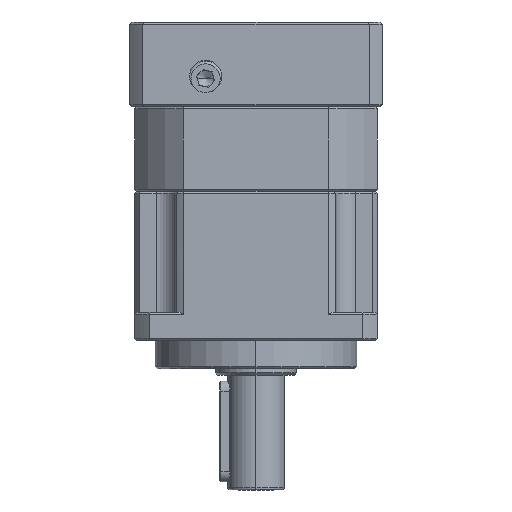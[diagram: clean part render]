
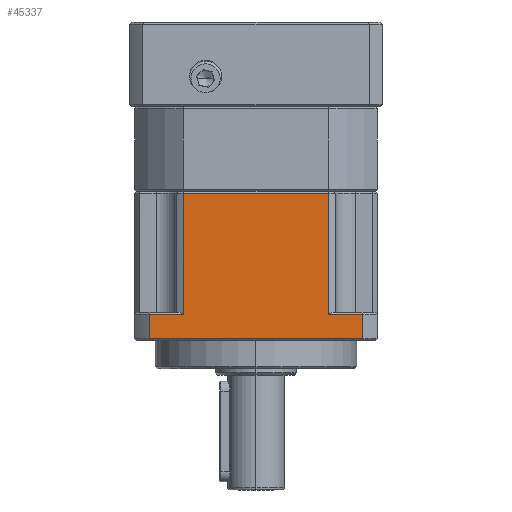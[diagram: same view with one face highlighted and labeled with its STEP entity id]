
A CAD part, left-side view. The second image highlights one B-rep face of the part: STEP entity #45337.
In plain terms, the highlighted planar face has unit normal (-1, 0, 0).
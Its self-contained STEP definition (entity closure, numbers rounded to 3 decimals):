
#529 = DIRECTION ( 'NONE',  ( 1., 0., 0. ) ) ;
#2145 = ORIENTED_EDGE ( 'NONE', *, *, #35037, .F. ) ;
#2540 = EDGE_CURVE ( 'NONE', #17153, #47011, #3408, .T. ) ;
#3408 = LINE ( 'NONE', #75482, #41998 ) ;
#3606 = LINE ( 'NONE', #89566, #78391 ) ;
#4888 = VECTOR ( 'NONE', #24397, 1000. ) ;
#5077 = VERTEX_POINT ( 'NONE', #64223 ) ;
#6300 = ORIENTED_EDGE ( 'NONE', *, *, #57804, .T. ) ;
#6393 = ORIENTED_EDGE ( 'NONE', *, *, #2540, .F. ) ;
#11939 = CARTESIAN_POINT ( 'NONE',  ( -62.293, 28.941, 110.502 ) ) ;
#13494 = ORIENTED_EDGE ( 'NONE', *, *, #55249, .F. ) ;
#14795 = PLANE ( 'NONE',  #36953 ) ;
#16425 = VERTEX_POINT ( 'NONE', #76972 ) ;
#16445 = VERTEX_POINT ( 'NONE', #33249 ) ;
#17153 = VERTEX_POINT ( 'NONE', #54055 ) ;
#17971 = CARTESIAN_POINT ( 'NONE',  ( -62.293, -19.087, 74.502 ) ) ;
#18128 = CARTESIAN_POINT ( 'NONE',  ( -62.293, -15.545, 80.502 ) ) ;
#19852 = VECTOR ( 'NONE', #93204, 1000. ) ;
#20045 = ORIENTED_EDGE ( 'NONE', *, *, #62705, .F. ) ;
#20666 = CARTESIAN_POINT ( 'NONE',  ( -62.293, -7.115, 110.502 ) ) ;
#24397 = DIRECTION ( 'NONE',  ( 0., 1., 0. ) ) ;
#25427 = EDGE_CURVE ( 'NONE', #16445, #32405, #76055, .T. ) ;
#30400 = LINE ( 'NONE', #67924, #66703 ) ;
#31432 = ORIENTED_EDGE ( 'NONE', *, *, #34032, .F. ) ;
#32405 = VERTEX_POINT ( 'NONE', #11939 ) ;
#32496 = DIRECTION ( 'NONE',  ( 0., 1., 0. ) ) ;
#33249 = CARTESIAN_POINT ( 'NONE',  ( -62.293, 28.941, 80.502 ) ) ;
#34032 = EDGE_CURVE ( 'NONE', #83329, #16425, #3606, .T. ) ;
#35011 = EDGE_CURVE ( 'NONE', #5077, #83329, #30400, .T. ) ;
#35037 = EDGE_CURVE ( 'NONE', #91301, #5077, #47499, .T. ) ;
#36953 = AXIS2_PLACEMENT_3D ( 'NONE', #44023, #529, #51258 ) ;
#37579 = VECTOR ( 'NONE', #55199, 1000. ) ;
#39432 = DIRECTION ( 'NONE',  ( 0., 0., -1. ) ) ;
#41998 = VECTOR ( 'NONE', #75808, 1000. ) ;
#42624 = CARTESIAN_POINT ( 'NONE',  ( -62.293, -19.087, 80.502 ) ) ;
#44023 = CARTESIAN_POINT ( 'NONE',  ( -62.293, -19.087, 111.002 ) ) ;
#45337 = ADVANCED_FACE ( 'NONE', ( #88696 ), #14795, .F. ) ;
#47011 = VERTEX_POINT ( 'NONE', #90537 ) ;
#47499 = LINE ( 'NONE', #75467, #64425 ) ;
#47817 = LINE ( 'NONE', #17971, #64765 ) ;
#49335 = LINE ( 'NONE', #42624, #19852 ) ;
#50278 = EDGE_LOOP ( 'NONE', ( #2145, #6300, #69213, #20045, #6393, #13494, #31432, #87060 ) ) ;
#51258 = DIRECTION ( 'NONE',  ( 0., 0., -1. ) ) ;
#53808 = DIRECTION ( 'NONE',  ( 0., 0., -1. ) ) ;
#54055 = CARTESIAN_POINT ( 'NONE',  ( -62.293, 37.37, 74.502 ) ) ;
#55199 = DIRECTION ( 'NONE',  ( 0., 0., 1. ) ) ;
#55249 = EDGE_CURVE ( 'NONE', #16425, #17153, #47817, .T. ) ;
#57804 = EDGE_CURVE ( 'NONE', #91301, #32405, #81932, .T. ) ;
#62487 = CARTESIAN_POINT ( 'NONE',  ( -62.293, 28.941, 111.002 ) ) ;
#62705 = EDGE_CURVE ( 'NONE', #47011, #16445, #49335, .T. ) ;
#64223 = CARTESIAN_POINT ( 'NONE',  ( -62.293, -7.115, 80.502 ) ) ;
#64425 = VECTOR ( 'NONE', #39432, 1000. ) ;
#64765 = VECTOR ( 'NONE', #32496, 1000. ) ;
#66703 = VECTOR ( 'NONE', #67599, 1000. ) ;
#67599 = DIRECTION ( 'NONE',  ( 0., -1., 0. ) ) ;
#67924 = CARTESIAN_POINT ( 'NONE',  ( -62.293, -19.087, 80.502 ) ) ;
#69213 = ORIENTED_EDGE ( 'NONE', *, *, #25427, .F. ) ;
#75057 = CARTESIAN_POINT ( 'NONE',  ( -62.293, -19.087, 110.502 ) ) ;
#75467 = CARTESIAN_POINT ( 'NONE',  ( -62.293, -7.115, 111.002 ) ) ;
#75482 = CARTESIAN_POINT ( 'NONE',  ( -62.293, 37.37, 111.002 ) ) ;
#75808 = DIRECTION ( 'NONE',  ( 0., 0., 1. ) ) ;
#76055 = LINE ( 'NONE', #62487, #37579 ) ;
#76972 = CARTESIAN_POINT ( 'NONE',  ( -62.293, -15.545, 74.502 ) ) ;
#78391 = VECTOR ( 'NONE', #53808, 1000. ) ;
#81932 = LINE ( 'NONE', #75057, #4888 ) ;
#83329 = VERTEX_POINT ( 'NONE', #18128 ) ;
#87060 = ORIENTED_EDGE ( 'NONE', *, *, #35011, .F. ) ;
#88696 = FACE_OUTER_BOUND ( 'NONE', #50278, .T. ) ;
#89566 = CARTESIAN_POINT ( 'NONE',  ( -62.293, -15.545, 111.002 ) ) ;
#90537 = CARTESIAN_POINT ( 'NONE',  ( -62.293, 37.37, 80.502 ) ) ;
#91301 = VERTEX_POINT ( 'NONE', #20666 ) ;
#93204 = DIRECTION ( 'NONE',  ( 0., -1., 0. ) ) ;
